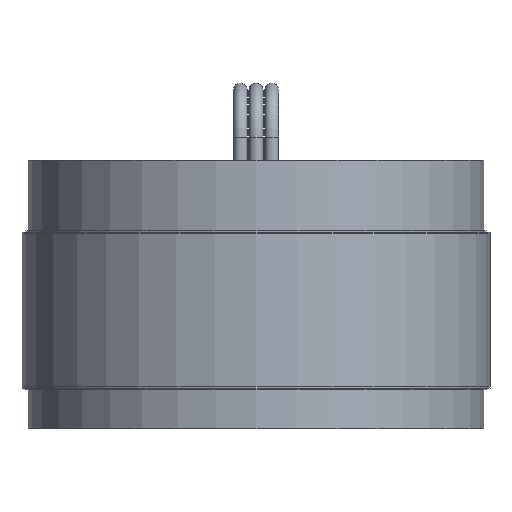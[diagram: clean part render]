
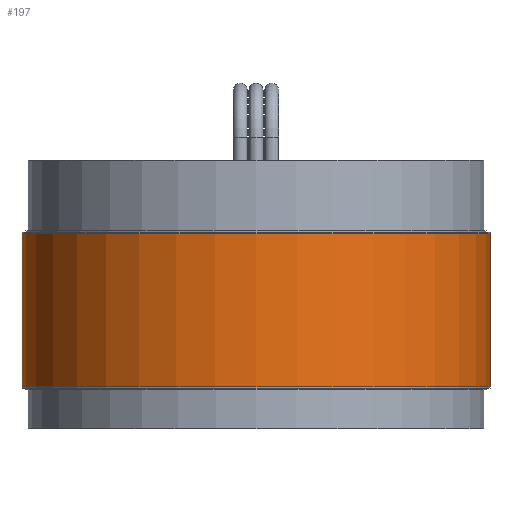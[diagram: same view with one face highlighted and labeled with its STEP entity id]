
A CAD part, front view. The second image highlights one B-rep face of the part: STEP entity #197.
In plain terms, the highlighted cylindrical face has radius 38.1 mm (diameter 76.2 mm), a full revolution.
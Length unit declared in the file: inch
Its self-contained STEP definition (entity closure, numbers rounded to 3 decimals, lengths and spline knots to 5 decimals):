
#61 = AXIS2_PLACEMENT_3D ( 'NONE', #442, #639, #1251 ) ;
#80 = FACE_OUTER_BOUND ( 'NONE', #1289, .T. ) ;
#129 = CIRCLE ( 'NONE', #826, 1.5 ) ;
#197 = ADVANCED_FACE ( 'NONE', ( #80, #853 ), #284, .T. ) ;
#284 = CYLINDRICAL_SURFACE ( 'NONE', #61, 1.5 ) ;
#442 = CARTESIAN_POINT ( 'NONE',  ( 0., 0., -0.51 ) ) ;
#478 = EDGE_CURVE ( 'NONE', #733, #733, #817, .T. ) ;
#490 = VERTEX_POINT ( 'NONE', #564 ) ;
#541 = DIRECTION ( 'NONE',  ( 0., 0., 1. ) ) ;
#564 = CARTESIAN_POINT ( 'NONE',  ( 1.5, 0., -0.49213 ) ) ;
#639 = DIRECTION ( 'NONE',  ( 0., 0., 1. ) ) ;
#645 = DIRECTION ( 'NONE',  ( 1., 0., 0. ) ) ;
#733 = VERTEX_POINT ( 'NONE', #1036 ) ;
#755 = ORIENTED_EDGE ( 'NONE', *, *, #1072, .T. ) ;
#804 = EDGE_LOOP ( 'NONE', ( #755 ) ) ;
#817 = CIRCLE ( 'NONE', #929, 1.5 ) ;
#826 = AXIS2_PLACEMENT_3D ( 'NONE', #863, #541, #645 ) ;
#853 = FACE_OUTER_BOUND ( 'NONE', #804, .T. ) ;
#863 = CARTESIAN_POINT ( 'NONE',  ( 0., 0., -0.49213 ) ) ;
#881 = CARTESIAN_POINT ( 'NONE',  ( 0., 0., 0.49213 ) ) ;
#929 = AXIS2_PLACEMENT_3D ( 'NONE', #881, #1280, #985 ) ;
#985 = DIRECTION ( 'NONE',  ( 1., 0., 0. ) ) ;
#1036 = CARTESIAN_POINT ( 'NONE',  ( 1.5, 0., 0.49213 ) ) ;
#1048 = ORIENTED_EDGE ( 'NONE', *, *, #478, .F. ) ;
#1072 = EDGE_CURVE ( 'NONE', #490, #490, #129, .T. ) ;
#1251 = DIRECTION ( 'NONE',  ( 1., 0., 0. ) ) ;
#1280 = DIRECTION ( 'NONE',  ( 0., 0., 1. ) ) ;
#1289 = EDGE_LOOP ( 'NONE', ( #1048 ) ) ;
